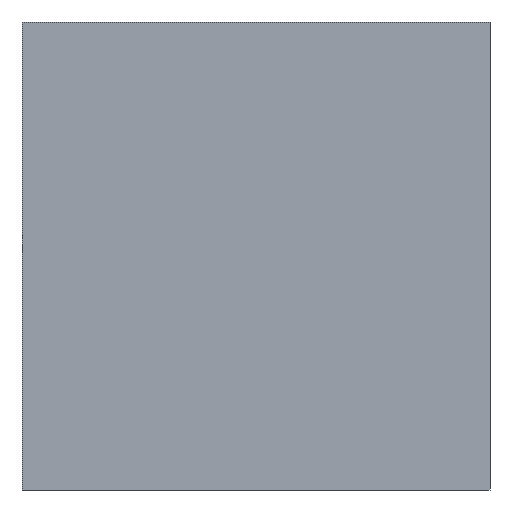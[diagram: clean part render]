
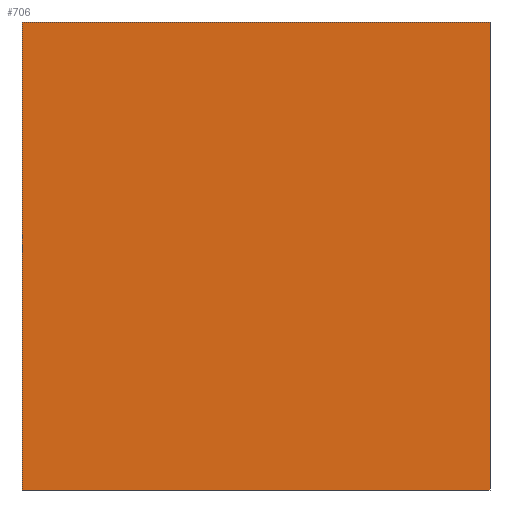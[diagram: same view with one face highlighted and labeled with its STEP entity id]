
A CAD part, front view. The second image highlights one B-rep face of the part: STEP entity #706.
In plain terms, the highlighted planar face has unit normal (0, -1, 0).
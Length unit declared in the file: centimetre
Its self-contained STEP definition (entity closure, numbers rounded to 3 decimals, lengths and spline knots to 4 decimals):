
#7 = VERTEX_POINT ( 'NONE', #697 ) ;
#17 = CARTESIAN_POINT ( 'NONE',  ( 0., 0., 1000. ) ) ;
#25 = DIRECTION ( 'NONE',  ( 1., 0., 0. ) ) ;
#124 = CARTESIAN_POINT ( 'NONE',  ( 1000., 0., 1000. ) ) ;
#127 = EDGE_CURVE ( 'NONE', #607, #690, #609, .T. ) ;
#144 = ORIENTED_EDGE ( 'NONE', *, *, #643, .T. ) ;
#147 = CARTESIAN_POINT ( 'NONE',  ( 0., 0., 0. ) ) ;
#149 = DIRECTION ( 'NONE',  ( 0., 0., -1. ) ) ;
#189 = DIRECTION ( 'NONE',  ( 0., 0., -1. ) ) ;
#208 = CARTESIAN_POINT ( 'NONE',  ( 0., 0., 1000. ) ) ;
#218 = DIRECTION ( 'NONE',  ( 0., 0., 1. ) ) ;
#259 = PLANE ( 'NONE',  #269 ) ;
#269 = AXIS2_PLACEMENT_3D ( 'NONE', #208, #326, #218 ) ;
#270 = FACE_OUTER_BOUND ( 'NONE', #672, .T. ) ;
#298 = ORIENTED_EDGE ( 'NONE', *, *, #733, .T. ) ;
#326 = DIRECTION ( 'NONE',  ( 0., 1., 0. ) ) ;
#334 = VECTOR ( 'NONE', #25, 100. ) ;
#340 = VERTEX_POINT ( 'NONE', #17 ) ;
#412 = LINE ( 'NONE', #636, #650 ) ;
#473 = VECTOR ( 'NONE', #189, 100. ) ;
#474 = LINE ( 'NONE', #147, #334 ) ;
#596 = VECTOR ( 'NONE', #149, 100. ) ;
#607 = VERTEX_POINT ( 'NONE', #124 ) ;
#609 = LINE ( 'NONE', #661, #596 ) ;
#636 = CARTESIAN_POINT ( 'NONE',  ( 0., 0., 1000. ) ) ;
#643 = EDGE_CURVE ( 'NONE', #340, #7, #693, .T. ) ;
#646 = EDGE_CURVE ( 'NONE', #340, #607, #412, .T. ) ;
#647 = ORIENTED_EDGE ( 'NONE', *, *, #646, .F. ) ;
#650 = VECTOR ( 'NONE', #683, 100. ) ;
#661 = CARTESIAN_POINT ( 'NONE',  ( 1000., 0., 1000. ) ) ;
#672 = EDGE_LOOP ( 'NONE', ( #298, #736, #647, #144 ) ) ;
#683 = DIRECTION ( 'NONE',  ( 1., 0., 0. ) ) ;
#690 = VERTEX_POINT ( 'NONE', #714 ) ;
#693 = LINE ( 'NONE', #696, #473 ) ;
#696 = CARTESIAN_POINT ( 'NONE',  ( 0., 0., 1000. ) ) ;
#697 = CARTESIAN_POINT ( 'NONE',  ( 0., 0., 0. ) ) ;
#706 = ADVANCED_FACE ( 'NONE', ( #270 ), #259, .F. ) ;
#714 = CARTESIAN_POINT ( 'NONE',  ( 1000., 0., 0. ) ) ;
#733 = EDGE_CURVE ( 'NONE', #7, #690, #474, .T. ) ;
#736 = ORIENTED_EDGE ( 'NONE', *, *, #127, .F. ) ;
